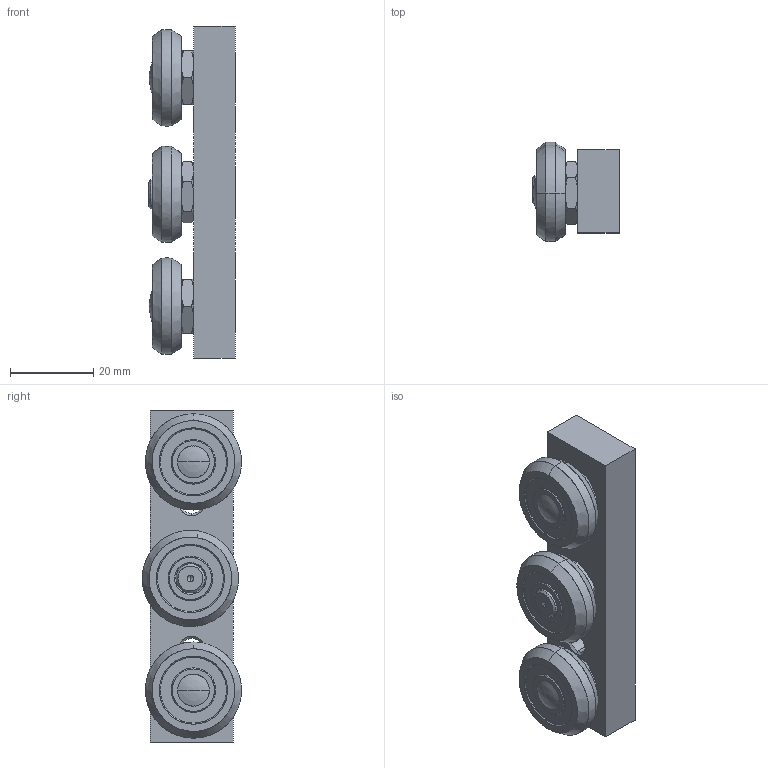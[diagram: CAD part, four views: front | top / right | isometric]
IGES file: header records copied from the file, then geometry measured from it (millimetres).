
Start section: SolidWorks IGES file using analytic representation for surfaces
Global section: file name: C:\Users\ianosborn\Desktop\L1971_v2\L1971.SBU_v2\L1971.SBU_v2_20260120_IGES\L1971.30U-080.igs; native system: SolidWorks 2019; preprocessor: SolidWorks 2019; author: IanOsborn; date: 260121.122901; units: millimetre
Bounding box: 20.8 x 23.89 x 80 mm (x, y, z)
Surface area: 11305.1 mm2 (no closed solid volume)
Topology: 0 solids, 0 shells, 276 faces, 3534 edges, 3520 vertices
Faces by surface type: revolution 167, bspline 109
